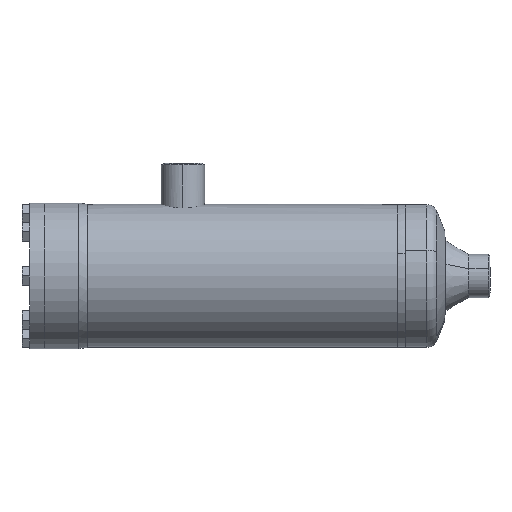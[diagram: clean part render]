
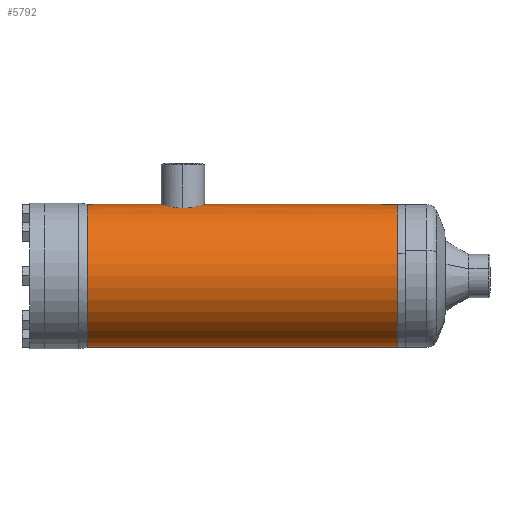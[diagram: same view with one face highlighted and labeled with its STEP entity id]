
A CAD part, left-side view. The second image highlights one B-rep face of the part: STEP entity #5792.
In plain terms, the highlighted cylindrical face has radius 69.85 mm (diameter 139.7 mm), a partial arc.
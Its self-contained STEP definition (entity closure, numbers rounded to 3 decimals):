
#149 = VERTEX_POINT ( 'NONE', #5741 ) ;
#364 = EDGE_CURVE ( 'NONE', #5289, #149, #5978, .T. ) ;
#738 = CIRCLE ( 'NONE', #739, 69.85 ) ;
#739 = AXIS2_PLACEMENT_3D ( 'NONE', #740, #741, #742 ) ;
#740 = CARTESIAN_POINT ( 'NONE',  ( 0., 306.478, 0. ) ) ;
#741 = DIRECTION ( 'NONE',  ( 0., -1., 0. ) ) ;
#742 = DIRECTION ( 'NONE',  ( 0., 0., -1. ) ) ;
#1040 = ORIENTED_EDGE ( 'NONE', *, *, #5102, .F. ) ;
#1548 = ORIENTED_EDGE ( 'NONE', *, *, #9249, .F. ) ;
#2198 = EDGE_CURVE ( 'NONE', #6698, #2876, #7785, .T. ) ;
#2579 = CARTESIAN_POINT ( 'NONE',  ( 0., 194., 69.85 ) ) ;
#2709 = B_SPLINE_CURVE_WITH_KNOTS ( 'NONE', 3,
 ( #2710, #2713, #2714, #2715, #2716, #2717, #2718, #2719, #2720, #2721, #2722, #2723, #2724, #2725, #2726, #2727, #2728, #2731, #2732, #2733, #2734, #2735, #2736, #2737, #2738, #2739, #2740, #2741 ),
 .UNSPECIFIED., .F., .F.,
 ( 4, 2, 2, 2, 2, 2, 2, 2, 2, 2, 2, 2, 2, 4 ),
 ( 0.06, 0.062, 0.063, 0.067, 0.069, 0.071, 0.075, 0.076, 0.078, 0.082, 0.084, 0.086, 0.088, 0.09 ),
 .UNSPECIFIED. ) ;
#2710 = CARTESIAN_POINT ( 'NONE',  ( -19., 213., 67.216 ) ) ;
#2713 = CARTESIAN_POINT ( 'NONE',  ( -19., 212.378, 67.216 ) ) ;
#2714 = CARTESIAN_POINT ( 'NONE',  ( -18.97, 211.757, 67.225 ) ) ;
#2715 = CARTESIAN_POINT ( 'NONE',  ( -18.847, 210.517, 67.259 ) ) ;
#2716 = CARTESIAN_POINT ( 'NONE',  ( -18.755, 209.897, 67.285 ) ) ;
#2717 = CARTESIAN_POINT ( 'NONE',  ( -18.386, 208.046, 67.387 ) ) ;
#2718 = CARTESIAN_POINT ( 'NONE',  ( -18.022, 206.858, 67.487 ) ) ;
#2719 = CARTESIAN_POINT ( 'NONE',  ( -17.309, 205.141, 67.672 ) ) ;
#2720 = CARTESIAN_POINT ( 'NONE',  ( -17.044, 204.579, 67.739 ) ) ;
#2721 = CARTESIAN_POINT ( 'NONE',  ( -16.454, 203.479, 67.885 ) ) ;
#2722 = CARTESIAN_POINT ( 'NONE',  ( -16.132, 202.942, 67.963 ) ) ;
#2723 = CARTESIAN_POINT ( 'NONE',  ( -15.097, 201.398, 68.203 ) ) ;
#2724 = CARTESIAN_POINT ( 'NONE',  ( -14.315, 200.446, 68.373 ) ) ;
#2725 = CARTESIAN_POINT ( 'NONE',  ( -13.001, 199.131, 68.631 ) ) ;
#2726 = CARTESIAN_POINT ( 'NONE',  ( -12.537, 198.71, 68.717 ) ) ;
#2727 = CARTESIAN_POINT ( 'NONE',  ( -11.577, 197.921, 68.886 ) ) ;
#2728 = CARTESIAN_POINT ( 'NONE',  ( -11.08, 197.553, 68.968 ) ) ;
#2731 = CARTESIAN_POINT ( 'NONE',  ( -9.542, 196.524, 69.203 ) ) ;
#2732 = CARTESIAN_POINT ( 'NONE',  ( -8.453, 195.938, 69.346 ) ) ;
#2733 = CARTESIAN_POINT ( 'NONE',  ( -6.716, 195.216, 69.529 ) ) ;
#2734 = CARTESIAN_POINT ( 'NONE',  ( -6.127, 195.004, 69.583 ) ) ;
#2735 = CARTESIAN_POINT ( 'NONE',  ( -4.938, 194.642, 69.678 ) ) ;
#2736 = CARTESIAN_POINT ( 'NONE',  ( -4.336, 194.491, 69.718 ) ) ;
#2737 = CARTESIAN_POINT ( 'NONE',  ( -3.12, 194.248, 69.783 ) ) ;
#2738 = CARTESIAN_POINT ( 'NONE',  ( -2.504, 194.155, 69.808 ) ) ;
#2739 = CARTESIAN_POINT ( 'NONE',  ( -1.259, 194.031, 69.841 ) ) ;
#2740 = CARTESIAN_POINT ( 'NONE',  ( -0.626, 194., 69.85 ) ) ;
#2741 = CARTESIAN_POINT ( 'NONE',  ( 0., 194., 69.85 ) ) ;
#2876 = VERTEX_POINT ( 'NONE', #8308 ) ;
#3093 = CARTESIAN_POINT ( 'NONE',  ( 0., 3.522, 69.85 ) ) ;
#3232 = LINE ( 'NONE', #3233, #3234 ) ;
#3233 = CARTESIAN_POINT ( 'NONE',  ( 0., 0., 69.85 ) ) ;
#3234 = VECTOR ( 'NONE', #3235, 1000. ) ;
#3235 = DIRECTION ( 'NONE',  ( 0., -1., 0. ) ) ;
#4617 = EDGE_CURVE ( 'NONE', #5289, #6698, #738, .T. ) ;
#4643 = ORIENTED_EDGE ( 'NONE', *, *, #4617, .T. ) ;
#4877 = VERTEX_POINT ( 'NONE', #3093 ) ;
#4901 = EDGE_CURVE ( 'NONE', #9071, #4877, #3232, .T. ) ;
#5102 = EDGE_CURVE ( 'NONE', #149, #6755, #11099, .T. ) ;
#5289 = VERTEX_POINT ( 'NONE', #6871 ) ;
#5339 = EDGE_CURVE ( 'NONE', #4877, #2876, #7488, .T. ) ;
#5550 = EDGE_LOOP ( 'NONE', ( #9502, #4643, #6554, #10266, #9751, #1548, #1040 ) ) ;
#5741 = CARTESIAN_POINT ( 'NONE',  ( 0., 232., 69.85 ) ) ;
#5792 = ADVANCED_FACE ( 'NONE', ( #9300 ), #9301, .T. ) ;
#5978 = LINE ( 'NONE', #5979, #5980 ) ;
#5979 = CARTESIAN_POINT ( 'NONE',  ( 0., 0., 69.85 ) ) ;
#5980 = VECTOR ( 'NONE', #5981, 1000. ) ;
#5981 = DIRECTION ( 'NONE',  ( 0., -1., 0. ) ) ;
#6554 = ORIENTED_EDGE ( 'NONE', *, *, #2198, .T. ) ;
#6698 = VERTEX_POINT ( 'NONE', #11272 ) ;
#6755 = VERTEX_POINT ( 'NONE', #11332 ) ;
#6871 = CARTESIAN_POINT ( 'NONE',  ( 0., 306.478, 69.85 ) ) ;
#7488 = CIRCLE ( 'NONE', #7489, 69.85 ) ;
#7489 = AXIS2_PLACEMENT_3D ( 'NONE', #7490, #7491, #7492 ) ;
#7490 = CARTESIAN_POINT ( 'NONE',  ( 0., 3.522, 0. ) ) ;
#7491 = DIRECTION ( 'NONE',  ( 0., -1., 0. ) ) ;
#7492 = DIRECTION ( 'NONE',  ( 0., 0., -1. ) ) ;
#7785 = LINE ( 'NONE', #7786, #7787 ) ;
#7786 = CARTESIAN_POINT ( 'NONE',  ( 0., 0., -69.85 ) ) ;
#7787 = VECTOR ( 'NONE', #7790, 1000. ) ;
#7790 = DIRECTION ( 'NONE',  ( 0., -1., 0. ) ) ;
#8308 = CARTESIAN_POINT ( 'NONE',  ( 0., 3.522, -69.85 ) ) ;
#9071 = VERTEX_POINT ( 'NONE', #2579 ) ;
#9249 = EDGE_CURVE ( 'NONE', #6755, #9071, #2709, .T. ) ;
#9300 = FACE_OUTER_BOUND ( 'NONE', #5550, .T. ) ;
#9301 = CYLINDRICAL_SURFACE ( 'NONE', #9302, 69.85 ) ;
#9302 = AXIS2_PLACEMENT_3D ( 'NONE', #9303, #9304, #9305 ) ;
#9303 = CARTESIAN_POINT ( 'NONE',  ( 0., 0., 0. ) ) ;
#9304 = DIRECTION ( 'NONE',  ( 0., -1., 0. ) ) ;
#9305 = DIRECTION ( 'NONE',  ( 0., 0., -1. ) ) ;
#9502 = ORIENTED_EDGE ( 'NONE', *, *, #364, .F. ) ;
#9751 = ORIENTED_EDGE ( 'NONE', *, *, #4901, .F. ) ;
#10266 = ORIENTED_EDGE ( 'NONE', *, *, #5339, .F. ) ;
#11099 = B_SPLINE_CURVE_WITH_KNOTS ( 'NONE', 3,
 ( #11100, #11101, #11102, #11103, #11104, #11105, #11106, #11107, #11108, #11109, #11110, #11111, #11112, #11113, #11114, #11115, #11116, #11117, #11118, #11119, #11120, #11121, #11122, #11123, #11127, #11128, #11129, #11130 ),
 .UNSPECIFIED., .F., .F.,
 ( 4, 2, 2, 2, 2, 2, 2, 2, 2, 2, 2, 2, 2, 4 ),
 ( 0.03, 0.032, 0.034, 0.037, 0.039, 0.041, 0.043, 0.045, 0.048, 0.05, 0.052, 0.056, 0.058, 0.06 ),
 .UNSPECIFIED. ) ;
#11100 = CARTESIAN_POINT ( 'NONE',  ( 0., 232., 69.85 ) ) ;
#11101 = CARTESIAN_POINT ( 'NONE',  ( -0.623, 232., 69.85 ) ) ;
#11102 = CARTESIAN_POINT ( 'NONE',  ( -1.248, 231.969, 69.842 ) ) ;
#11103 = CARTESIAN_POINT ( 'NONE',  ( -2.503, 231.845, 69.808 ) ) ;
#11104 = CARTESIAN_POINT ( 'NONE',  ( -3.121, 231.752, 69.783 ) ) ;
#11105 = CARTESIAN_POINT ( 'NONE',  ( -4.952, 231.385, 69.685 ) ) ;
#11106 = CARTESIAN_POINT ( 'NONE',  ( -6.139, 231.024, 69.589 ) ) ;
#11107 = CARTESIAN_POINT ( 'NONE',  ( -7.87, 230.305, 69.408 ) ) ;
#11108 = CARTESIAN_POINT ( 'NONE',  ( -8.438, 230.035, 69.341 ) ) ;
#11109 = CARTESIAN_POINT ( 'NONE',  ( -9.532, 229.448, 69.199 ) ) ;
#11110 = CARTESIAN_POINT ( 'NONE',  ( -10.061, 229.129, 69.124 ) ) ;
#11111 = CARTESIAN_POINT ( 'NONE',  ( -11.087, 228.442, 68.966 ) ) ;
#11112 = CARTESIAN_POINT ( 'NONE',  ( -11.583, 228.074, 68.885 ) ) ;
#11113 = CARTESIAN_POINT ( 'NONE',  ( -12.54, 227.287, 68.717 ) ) ;
#11114 = CARTESIAN_POINT ( 'NONE',  ( -13.004, 226.867, 68.63 ) ) ;
#11115 = CARTESIAN_POINT ( 'NONE',  ( -14.321, 225.548, 68.372 ) ) ;
#11116 = CARTESIAN_POINT ( 'NONE',  ( -15.102, 224.595, 68.201 ) ) ;
#11117 = CARTESIAN_POINT ( 'NONE',  ( -16.133, 223.055, 67.962 ) ) ;
#11118 = CARTESIAN_POINT ( 'NONE',  ( -16.453, 222.523, 67.885 ) ) ;
#11119 = CARTESIAN_POINT ( 'NONE',  ( -17.043, 221.421, 67.739 ) ) ;
#11120 = CARTESIAN_POINT ( 'NONE',  ( -17.311, 220.856, 67.671 ) ) ;
#11121 = CARTESIAN_POINT ( 'NONE',  ( -18.024, 219.138, 67.486 ) ) ;
#11122 = CARTESIAN_POINT ( 'NONE',  ( -18.385, 217.953, 67.387 ) ) ;
#11123 = CARTESIAN_POINT ( 'NONE',  ( -18.753, 216.117, 67.286 ) ) ;
#11127 = CARTESIAN_POINT ( 'NONE',  ( -18.846, 215.491, 67.259 ) ) ;
#11128 = CARTESIAN_POINT ( 'NONE',  ( -18.97, 214.244, 67.225 ) ) ;
#11129 = CARTESIAN_POINT ( 'NONE',  ( -19., 213.622, 67.216 ) ) ;
#11130 = CARTESIAN_POINT ( 'NONE',  ( -19., 213., 67.216 ) ) ;
#11272 = CARTESIAN_POINT ( 'NONE',  ( 0., 306.478, -69.85 ) ) ;
#11332 = CARTESIAN_POINT ( 'NONE',  ( -19., 213., 67.216 ) ) ;
